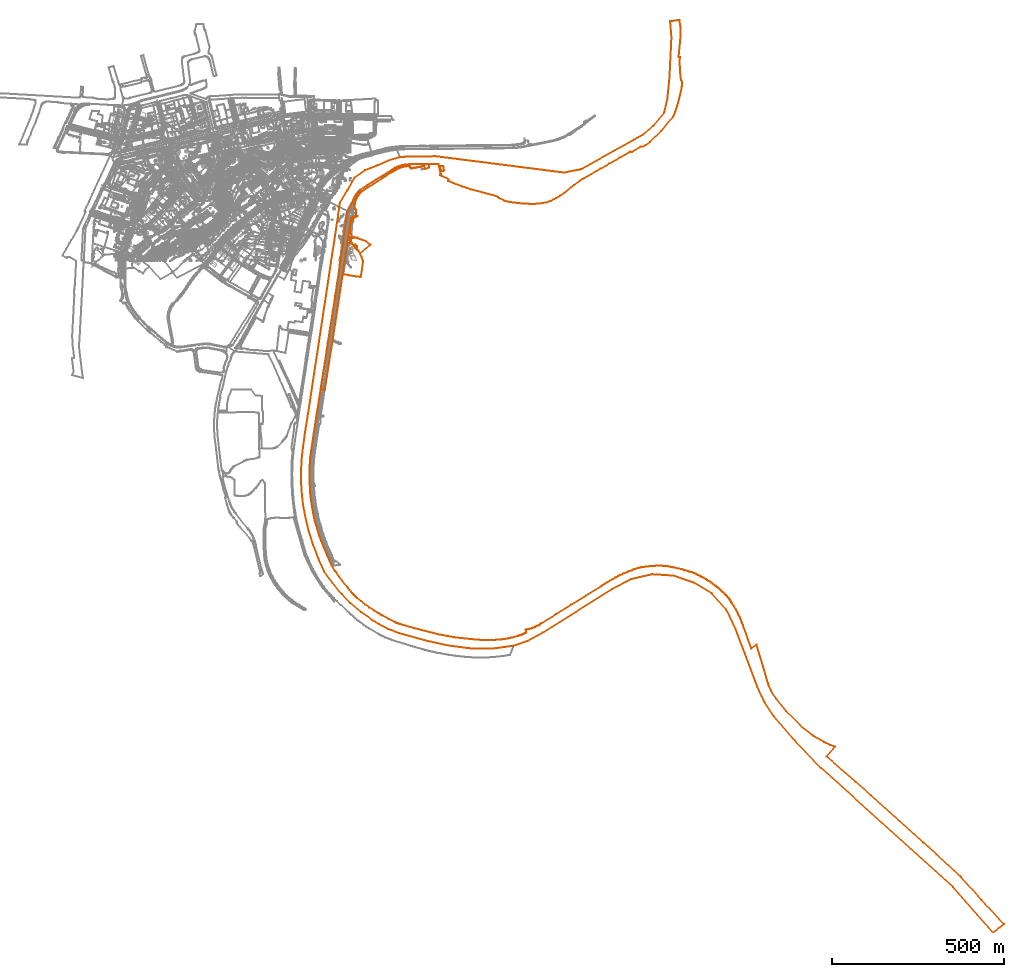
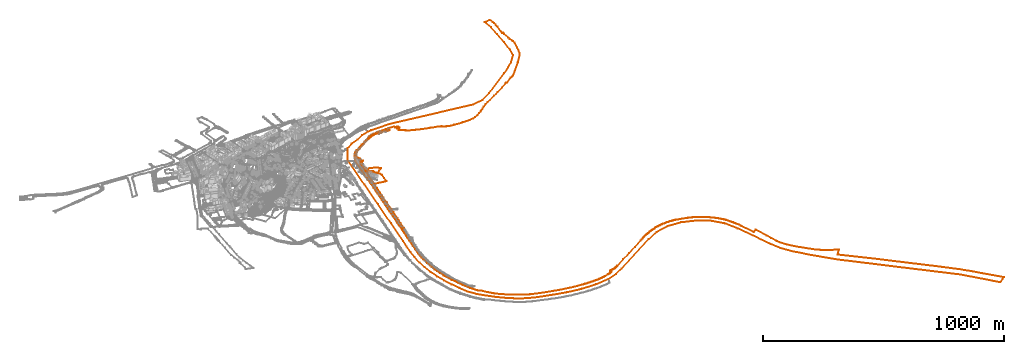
# Not in any storey, part 197 of 477: 4 geographic elements, 1 civil element.
"""IFC4 model written with IfcOpenShell, lengths in metres."""

from ifc_helpers import new_model, entity, si_unit, frame, origin_with_axes, place, context, subcontext, project, spatial, element, save


model = new_model("IFC4")

# Units and contexts
model_context = context("Model", 3, precision=1e-05, world=origin_with_axes())
body_context = subcontext(model_context, "Body", "Model", "MODEL_VIEW")
ifc_project = project(units=[si_unit("AREAUNIT", "SQUARE_METRE"), si_unit("LENGTHUNIT", "METRE")], contexts=[model_context])

# Sites
site_1_placement = place(None, origin_with_axes())
site_1 = spatial("IfcSite", under=ifc_project, at=site_1_placement, Name="Topoexport Site")
site_2_placement = place(site_1_placement, origin_with_axes())
site_2 = spatial("IfcSite", under=site_1, at=site_2_placement, Name="TPX_ROADS_OUTLINES")

# Civil element
civil_element_placement = place(site_2_placement, frame((676.8477320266, 50.5827160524, 502.7417613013), z_axis=(0.0, 0.0, 1.0), x_axis=(1.0, 0.0, 0.0)))
element("IfcCivilElement", 1, at=civil_element_placement, inside=site_2, Name="Roads Outline 111", ObjectType="ROAD", context=body_context, shape_type="GeometricCurveSet", body=[
    entity("IfcGeometricCurveSet", [entity("IfcIndexedPolyCurve", entity("IfcCartesianPointList3D", [[0.0, 0.0, 0.0], [1.4390000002, 9.5379999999, 0.0544406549], [2.406, 15.7649999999, 0.1727688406], [6.9340000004, 45.7609999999, 0.7243175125], [8.2560000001, 54.5449999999, 1.3172059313], [9.6810000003, 64.0, 0.8065225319], [10.2000000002, 67.439, 1.0233395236], [10.4950000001, 68.3999999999, 1.0053844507], [10.852, 69.3389999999, 1.0269529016], [11.2710000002, 70.2520000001, 1.0737440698], [11.7490000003, 71.1359999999, 1.0879564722], [12.284, 71.987, 1.1951884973], [12.8740000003, 72.8, 1.2460704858], [13.4890000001, 73.541, 1.2925676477], [14.1510000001, 74.2420000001, 1.3398007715], [14.855, 74.8999999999, 1.3813474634], [15.5989999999, 75.5120000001, 1.4038541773], [16.3810000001, 76.0760000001, 1.4180023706], [17.196, 76.5889999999, 1.4374150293], [18.0430000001, 77.0490000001, 1.4549626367], [18.1230000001, 76.9310000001, 1.450461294], [18.21, 76.818, 1.446150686], [19.0050000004, 75.973, 1.4154185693], [22.2150000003, 77.6880000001, 1.4773060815], [29.2090000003, 79.274, 1.522329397], [28.031, 78.8999999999, 1.5121740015], [26.8689999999, 78.4790000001, 1.5013046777], [25.7260000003, 78.0109999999, 1.488533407], [24.602, 77.496, 1.4706322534], [23.4850000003, 76.9269999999, 1.4503087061], [22.392, 76.3130000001, 1.4268864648], [21.3260000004, 75.6540000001, 1.407416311], [20.2880000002, 74.9510000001, 1.3845676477], [17.1240000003, 71.9950000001, 1.196196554], [16.4510000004, 66.5020000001, 1.0481086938], [16.0870000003, 63.6130000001, 0.6684468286], [16.0700000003, 63.527, 0.6687932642], [10.193, 64.405, 0.7658950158], [8.713, 54.4780000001, 1.6639119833], [7.4140000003, 45.7690000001, 0.850769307], [8.0449999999, 45.781, 1.3384440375], [7.8540000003, 37.7820000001, 1.0452661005], [6.355, 27.791, 0.5812857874], [12.656, 26.845, 0.4556467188], [12.4739999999, 20.7679999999, 0.348628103], [11.6159999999, 14.9990000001, 2.4412013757], [11.2660000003, 14.7490000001, 2.4311992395], [7.835, 15.29, 0.2884683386], [7.7860000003, 14.956, 0.3265535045], [8.7380000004, 14.8130000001, 0.9181942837], [8.2260000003, 11.0290000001, 0.3019195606], [10.3859999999, 9.189, 1.6378980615], [9.6499999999, 6.355, 1.9571049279], [11.0150000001, 6.156, 2.3321725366], [10.986, 5.9580000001, 2.3644050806], [10.6630000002, 3.7239999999, 1.6330187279], [13.0300000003, 1.014, 0.4309800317], [12.8430000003, 0.8500000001, 0.4423010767], [18.6040000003, -5.7439999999, 0.9782828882], [20.5360000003, -4.034, 0.811603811], [21.9720000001, -5.6610000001, 0.9701926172], [19.963, -7.433, 1.0927846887], [23.6970000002, -11.716, 0.806268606], [25.6950000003, -9.9750000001, 0.9323770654], [27.6070000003, -12.169, 0.7912865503], [26.8680000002, -12.8130000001, 0.7798090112], [25.6200000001, -11.3810000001, 0.8240470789], [24.3630000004, -12.4790000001, 0.785761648], [31.5130000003, -20.7009999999, 0.7330401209], [29.9890000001, -21.4399999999, 0.6414254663], [22.3970000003, -12.442, 0.7864210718], [8.7430000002, 3.3970000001, 0.1917493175], [5.213, 0.291, 0.1121935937], [2.7510000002, 0.5970000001, -0.0206027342], [1.423, -0.2150000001, -0.0086728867], [0.0, 0.0, 0.0]]))]),
])

# Site
site_3_placement = place(site_1_placement, origin_with_axes())
site_3 = spatial("IfcSite", under=site_1, at=site_3_placement, Name="TPX_CADASTRES")

# Geographic elements
geographic_element_1_placement = place(site_3_placement, frame((542.0177320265, -621.6102839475, 501.9060388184), z_axis=(0.0, 0.0, 1.0), x_axis=(1.0, 0.0, 0.0)))
element("IfcGeographicElement", 2, at=geographic_element_1_placement, inside=site_3, Name="Cadastre 115", PredefinedType="NOTDEFINED", context=body_context, shape_type="GeometricCurveSet", body=[
    entity("IfcGeometricCurveSet", [entity("IfcIndexedPolyCurve", entity("IfcCartesianPointList3D", [[0.0, 0.0, 0.0], [1.7000000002, 41.9029999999, 0.0426776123], [6.4010000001, 83.605, 0.0697938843], [12.202, 125.308, 0.0911263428], [19.003, 166.7109999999, 0.0603386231], [39.736, 303.4099999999, 0.0059807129], [62.23, 451.719, -1.0802236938], [84.7240000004, 600.0389999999, -1.1159338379], [107.2150000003, 748.3470000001, -1.0468880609], [113.0140000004, 790.55, -1.1881933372], [134.7110000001, 826.155, -1.161278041], [155.409, 863.659, -0.9169178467], [186.8100000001, 884.7590000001, -0.9188815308], [222.412, 898.9579999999, -1.1687156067], [254.0150000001, 912.959, 0.6503832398], [287.7180000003, 922.76, 1.7440050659], [303.3250000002, 923.7790000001, 2.063270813], [391.7410000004, 925.203, 2.1440401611], [764.2220000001, 877.7069999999, -1.0670202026], [813.7790000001, 887.4709999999, -0.9910232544], [860.0590000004, 913.3689999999, 0.6748161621], [967.5260000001, 973.5060000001, 27.7311880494], [994.6440000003, 988.254, 37.480184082], [1023.1500000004, 1013.648, 39.0747852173], [1055.9030000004, 1052.341, 40.5297521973], [1064.9140000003, 1092.6710000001, 40.5297521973], [1070.929, 1152.355, 40.5297521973], [1074.145, 1215.9210000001, 40.5297521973], [1076.898, 1272.449, 40.5297521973], [1073.0, 1317.497, 40.5297521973], [1099.7940000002, 1321.79, 40.5297521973], [1102.6010000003, 1301.723, 40.5297521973], [1103.4240000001, 1290.551, 40.5297521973], [1103.4770000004, 1280.514, 40.5297521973], [1102.2930000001, 1262.0279999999, 40.5297521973], [1098.5520000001, 1225.551, 40.5297521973], [1097.2440000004, 1213.4139999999, 40.5297521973], [1101.6160000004, 1212.946, 40.5297521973], [1101.426, 1211.067, 40.5297521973], [1100.4050000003, 1202.138, 40.5297521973], [1101.9770000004, 1174.115, 40.5297521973], [1102.9670000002, 1160.709, 40.5297521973], [1104.8590000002, 1146.179, 40.5297521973], [1107.0830000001, 1142.1140000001, 40.5297521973], [1106.9300000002, 1126.085, 40.5297521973], [1098.75, 1091.1129999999, 40.5297521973], [1093.1120000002, 1070.4709999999, 40.5297521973], [1087.611, 1053.0759999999, 40.5297521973], [1081.9100000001, 1041.25, 40.6099217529], [1046.9140000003, 998.0290000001, 37.8777592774], [1013.952, 966.9480000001, 23.0549628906], [1001.0490000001, 957.156, 15.1959356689], [993.9810000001, 953.3230000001, 12.8877911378], [987.1190000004, 953.0379999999, 12.5190143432], [961.6290000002, 937.5900000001, 3.665798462], [957.2340000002, 938.6810000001, 4.0288244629], [954.4210000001, 937.0600000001, 3.4625143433], [926.5050000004, 921.003, 1.0751563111], [896.0070000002, 903.4579999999, 0.5256862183], [870.9710000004, 889.0560000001, -1.0434083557], [824.1980000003, 862.5249999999, -0.8967766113], [810.4880000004, 854.436, -0.9945100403], [793.4700000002, 841.7649999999, -1.1405064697], [783.8320000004, 833.8389999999, -1.1022977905], [772.5140000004, 824.301, -1.2342279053], [765.8640000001, 819.112, -1.0903235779], [753.5080000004, 810.9679999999, -1.0176105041], [741.523, 803.5, -1.074896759], [725.1920000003, 795.5049999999, -1.335704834], [713.5960000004, 791.3500000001, -1.372318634], [694.4680000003, 787.821, -0.7182080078], [679.696, 786.7409999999, -0.4697137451], [664.0280000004, 786.9480000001, -0.5030366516], [644.5960000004, 787.828, -0.7203023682], [623.4060000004, 789.9709999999, -1.3066104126], [602.5380000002, 792.8959999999, -1.355947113], [590.9960000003, 796.0989999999, -1.3330582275], [575.4240000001, 803.2960000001, -1.0753761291], [572.605, 805.9920000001, -1.0486753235], [572.7720000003, 807.3159999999, -0.9968969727], [557.0450000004, 812.294, -1.0242065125], [527.3560000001, 820.0279999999, -1.1305361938], [494.3810000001, 828.817, -1.1863125], [468.1800000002, 837.7220000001, -1.1066472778], [442.8500000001, 847.226, -1.1580195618], [427.2440000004, 853.3149999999, -1.0875688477], [429.4910000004, 858.176, -0.8657447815], [409.1660000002, 867.754, -0.985758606], [404.9010000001, 870.3159999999, -0.9955252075], [404.074, 871.385, -0.9530349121], [407.0240000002, 873.9509999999, -1.0865319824], [403.9880000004, 883.5190000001, -0.936262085], [401.6940000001, 895.2079999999, -1.1791297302], [404.2280000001, 895.3259999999, -1.1788020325], [406.6520000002, 885.0349999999, -0.918755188], [407.9930000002, 881.54, -0.9807799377], [416.6610000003, 883.575, -0.9350008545], [414.29, 893.7649999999, -1.1818615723], [412.5810000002, 896.014, -1.1768913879], [412.4070000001, 897.3219999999, -1.1732589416], [404.057, 897.1189999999, -1.1738226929], [404.0690000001, 896.2849999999, -1.1761387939], [401.5360000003, 896.199, -1.1763776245], [399.642, 902.5589999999, 0.2813117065], [373.3500000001, 902.9820000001, 0.4195534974], [361.0750000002, 902.311, 0.200262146], [320.3250000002, 902.71, 0.3306604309], [293.2180000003, 899.5589999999, -1.1680561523], [273.9180000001, 891.8559999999, -1.1357965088], [218.4140000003, 857.6540000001, -0.8713044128], [181.412, 834.355, -1.0902175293], [168.0090000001, 822.352, -1.1854189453], [166.4360000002, 820.537, -1.148776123], [164.9080000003, 818.6839999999, -1.0687328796], [163.4280000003, 816.7930000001, -1.0072961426], [161.9940000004, 814.8659999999, -1.0223649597], [160.6100000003, 812.9029999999, -1.0272359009], [159.1740000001, 810.75, -1.0165260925], [157.7960000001, 808.5600000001, -0.9889538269], [156.4780000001, 806.3319999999, -1.0375517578], [155.2210000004, 804.071, -1.0735549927], [154.0250000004, 801.7760000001, -1.1110096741], [152.8910000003, 799.449, -1.2036887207], [151.821, 797.0929999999, -1.3226821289], [137.9820000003, 767.885, 2.3113259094], [135.2990000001, 762.5109999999, 2.2620417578], [123.801, 690.423, 0.5425215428], [124.4980000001, 684.551, 0.7243541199], [119.2950000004, 652.9909999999, 0.1488033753], [116.054, 631.5800000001, 0.1639845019], [112.8530000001, 609.909, -0.5517054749], [109.273, 582.077, -1.0554445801], [105.8520000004, 561.4750000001, -1.1082409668], [102.8320000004, 540.8740000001, -1.0558017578], [99.6910000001, 520.0829999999, -1.1056615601], [95.5900000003, 492.311, -1.1555075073], [92.3100000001, 472.02, -1.1044381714], [89.2890000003, 451.308, -1.1264724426], [84.3690000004, 423.8459999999, -1.1125753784], [81.378, 402.9550000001, -1.0842247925], [77.9580000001, 382.4939999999, -1.0687600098], [75.057, 361.622, -1.0425980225], [71.8170000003, 340.4709999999, -1.0613349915], [64.4250000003, 295.318, -1.1045910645], [59.9750000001, 266.8859999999, -0.0401028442], [56.912, 247.2560000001, 0.4312880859], [55.054, 235.344, 0.3271748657], [52.7640000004, 219.5330000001, 0.2402608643], [49.003, 195.192, 0.2519875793], [45.452, 174.72, 0.2037938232], [42.3620000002, 154.0589999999, 0.1048466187], [39.3110000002, 133.227, 0.004605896], [37.111, 119.477, 0.0074746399], [33.0600000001, 91.855, 0.1121435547], [27.5790000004, 57.2830000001, 0.0631157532], [26.2990000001, 40.7009999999, 0.0730621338], [25.1980000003, 23.6499999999, 0.0640465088], [25.0680000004, 7.2889999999, 0.063135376], [25.1270000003, -20.023, 0.06345047], [26.2370000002, -42.1229999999, 0.0737811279], [27.128, -55.2320000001, 0.0634484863], [29.52, -76.0209999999, 0.0621362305], [31.8020000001, -90.8300000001, 0.0908261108], [35.2540000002, -110.899, 0.0289588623], [39.9760000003, -133.6769999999, 0.0067570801], [53.1710000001, -176.916, 0.2370680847], [59.0420000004, -192.6359999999, 0.3572734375], [66.2540000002, -210.325, -1.1103059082], [75.2770000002, -232.4650000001, -1.0429473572], [89.54, -264.321, -1.1246417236], [99.1670000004, -279.6969999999, -1.1328786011], [103.0280000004, -285.2280000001, -1.0622677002], [106.9420000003, -290.7209999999, -1.1197266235], [110.909, -296.176, -0.9881795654], [119.7410000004, -307.6510000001, 0.8797353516], [134.9640000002, -327.382, 1.0506490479], [138.4310000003, -331.7409999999, 1.7574806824], [141.9570000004, -336.054, 1.901065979], [145.2770000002, -340.007, 1.9617590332], [148.6320000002, -343.932, 1.9617590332], [152.02, -347.827, 1.9617590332], [154.0150000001, -350.101, 1.9617590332], [156.0670000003, -352.324, 1.9617590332], [158.1740000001, -354.4939999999, 1.9617590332], [160.3350000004, -356.6100000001, 1.9617590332], [162.5490000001, -358.6710000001, 1.9617590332], [174.4020000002, -367.949, 1.9617590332], [186.3230000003, -377.1529999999, 1.9617590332], [198.5860000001, -385.9909999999, 1.9617590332], [211.8140000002, -394.6059999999, 1.9617590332], [224.537, -402.6070000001, 1.9617590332], [227.7660000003, -404.5160000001, 1.9617590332], [231.0190000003, -406.3829999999, 1.9617590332], [234.2960000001, -408.21, 1.9617590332], [237.5950000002, -409.9950000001, 1.9617590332], [255.23, -419.4369999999, 1.9617590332], [272.963, -428.703, 1.9617590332], [275.7050000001, -429.946, 1.9617590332], [278.4780000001, -431.1189999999, 1.9617590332], [281.2790000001, -432.2220000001, 1.9617590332], [284.1070000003, -433.254, 1.9617590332], [286.9600000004, -434.2150000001, 1.9617590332], [289.8360000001, -435.1040000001, 1.9617590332], [304.571, -439.4010000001, 1.9617590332], [332.9720000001, -447.452, 1.9617590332], [357.7310000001, -454.02, 1.9617590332], [381.5870000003, -459.8670000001, 1.9617590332], [401.2070000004, -464.5970000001, 1.9617590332], [420.8260000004, -468.5060000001, 1.9617590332], [447.8340000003, -473.0860000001, 1.9617590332], [467.6890000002, -475.4950000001, 1.9617590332], [502.5050000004, -479.0150000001, 1.9617590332], [507.3450000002, -479.4680000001, 1.9617590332], [512.1920000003, -479.845, 1.9617590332], [517.0450000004, -480.1459999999, 1.9617590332], [521.9010000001, -480.371, 1.9617590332], [526.7600000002, -480.52, 1.9617590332], [531.6210000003, -480.5919999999, 1.9617590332], [536.483, -480.588, 1.9617590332], [541.6570000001, -480.6680000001, 1.9617590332], [546.8310000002, -480.6880000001, 1.9617590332], [552.0050000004, -480.648, 1.9617590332], [557.1780000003, -480.5490000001, 1.9617590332], [562.3500000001, -480.3900000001, 1.9617590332], [567.52, -480.172, 1.9617590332], [571.2120000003, -480.023, 1.9617590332], [574.9010000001, -479.8049999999, 1.9617590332], [578.5860000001, -479.5190000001, 1.9617590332], [582.2640000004, -479.166, 1.9617590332], [585.9350000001, -478.7439999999, 1.9617590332], [589.5980000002, -478.2550000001, 1.9617590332], [593.2510000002, -477.6980000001, 1.9617590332], [596.8930000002, -477.074, 1.9617590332], [600.5240000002, -476.3829999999, 1.9617590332], [604.1400000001, -475.625, 1.9617590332], [607.7420000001, -474.8, 1.9617590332], [611.3290000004, -473.909, 1.9617590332], [614.898, -472.952, 1.9617590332], [630.3800000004, -468.8630000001, 1.9617590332], [632.6700000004, -468.2509999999, 1.9617590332], [634.9420000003, -467.575, 1.9617590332], [637.1950000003, -466.8370000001, 1.9617590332], [639.426, -466.0349999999, 1.9617590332], [641.6340000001, -465.172, 1.9617590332], [643.8170000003, -464.2479999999, 1.9617590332], [645.9730000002, -463.263, 1.9617590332], [648.1010000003, -462.2180000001, 1.9617590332], [650.199, -461.1140000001, 1.9617590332], [652.2650000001, -459.952, 1.9617590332], [653.8000000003, -459.0050000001, 1.9617590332], [653.9850000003, -458.791, 1.9617590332], [654.128, -458.547, 1.9617590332], [654.2220000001, -458.28, 1.9617590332], [654.2640000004, -458.0, 1.9617590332], [654.253, -457.7169999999, 1.9617590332], [653.1300000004, -450.4839999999, 1.9617590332], [655.8890000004, -450.0870000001, 1.9617590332], [658.6360000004, -449.6140000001, 1.9617590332], [661.3690000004, -449.0649999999, 1.9617590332], [664.0850000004, -448.439, 1.9617590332], [666.7830000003, -447.7390000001, 1.9617590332], [669.4610000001, -446.963, 1.9617590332], [672.1150000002, -446.1130000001, 1.9617590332], [674.7450000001, -445.1899999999, 1.9617590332], [677.3490000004, -444.193, 1.9617590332], [679.9230000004, -443.125, 1.9617590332], [682.4670000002, -441.9850000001, 1.9617590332], [684.9780000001, -440.7749999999, 1.9617590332], [687.4540000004, -439.4950000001, 1.9617590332], [689.8940000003, -438.1470000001, 1.9617590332], [692.2950000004, -436.7320000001, 1.9617590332], [694.6560000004, -435.25, 1.9617590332], [696.9750000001, -433.703, 1.9617590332], [699.25, -432.0919999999, 1.9617590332], [742.0430000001, -405.45, 1.9617590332], [785.5470000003, -378.378, 1.9617590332], [828.0120000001, -351.9099999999, 1.9617590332], [870.3230000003, -325.594, 1.9617590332], [877.327, -321.155, 1.9617590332], [884.3670000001, -316.773, 1.9617590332], [891.4430000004, -312.4510000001, 1.9617590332], [898.5550000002, -308.1869999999, 1.9617590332], [905.702, -303.9820000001, 1.9617590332], [912.8840000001, -299.8370000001, 1.9617590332], [917.466, -297.378, 1.9617590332], [922.0830000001, -294.987, 1.9617590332], [926.736, -292.665, 1.9617590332], [931.4230000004, -290.4129999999, 1.9617590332], [936.1430000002, -288.23, 1.9617590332], [940.895, -286.118, 1.9617590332], [945.6770000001, -284.077, 1.9617590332], [950.4890000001, -282.1070000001, 1.9617590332], [955.3310000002, -280.209, 1.9617590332], [960.199, -278.3829999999, 1.9617590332], [965.0950000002, -276.6300000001, 1.9617590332], [970.0160000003, -274.949, 1.9617590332], [974.9610000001, -273.3419999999, 1.9617590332], [979.9300000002, -271.8090000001, 1.9617590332], [983.48, -270.946, 1.9617590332], [987.0460000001, -270.148, 1.9617590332], [990.6260000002, -269.416, 1.9617590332], [994.2180000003, -268.7490000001, 1.9617590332], [997.8220000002, -268.148, 1.9617590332], [1001.4370000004, -267.6130000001, 1.9617590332], [1005.0600000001, -267.1440000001, 1.9617590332], [1008.6920000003, -266.7409999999, 1.9617590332], [1013.4010000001, -266.2650000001, 1.9617590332], [1018.1170000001, -265.861, 1.9617590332], [1022.838, -265.5290000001, 1.9617590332], [1027.5640000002, -265.2690000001, 1.9617590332], [1032.2940000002, -265.081, 1.9617590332], [1037.0250000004, -264.966, 1.9617590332], [1041.7580000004, -264.923, 1.9617590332], [1046.4910000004, -264.952, 1.9617590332], [1049.7770000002, -265.057, 1.9617590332], [1053.0590000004, -265.2250000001, 1.9617590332], [1056.338, -265.4569999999, 1.9617590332], [1059.6120000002, -265.7520000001, 1.9617590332], [1062.8800000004, -266.1100000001, 1.9617590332], [1066.1400000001, -266.531, 1.9617590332], [1069.3910000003, -267.0150000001, 1.9617590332], [1072.6330000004, -267.5619999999, 1.9617590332], [1075.8630000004, -268.1710000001, 1.9617590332], [1083.5240000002, -269.8500000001, 1.9617590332], [1091.1690000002, -271.598, 1.9617590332], [1098.7970000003, -273.4170000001, 1.9617590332], [1106.409, -275.3060000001, 1.9617590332], [1114.003, -277.2650000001, 1.9617590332], [1117.6300000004, -278.219, 1.9617590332], [1121.2390000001, -279.2350000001, 1.9617590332], [1124.8310000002, -280.3130000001, 1.9617590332], [1128.4040000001, -281.452, 1.9617590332], [1132.0600000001, -282.6869999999, 1.9617590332], [1135.6950000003, -283.987, 1.9617590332], [1139.3050000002, -285.3489999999, 1.9617590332], [1142.892, -286.7749999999, 1.9617590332], [1146.4530000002, -288.263, 1.9617590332], [1150.4070000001, -290.0420000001, 1.9617590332], [1154.3320000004, -291.882, 1.9617590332], [1158.2290000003, -293.7820000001, 1.9617590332], [1162.0950000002, -295.743, 1.9617590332], [1165.9310000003, -297.763, 1.9617590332], [1169.7350000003, -299.8430000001, 1.9617590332], [1173.5070000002, -301.9809999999, 1.9617590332], [1177.2450000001, -304.1769999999, 1.9617590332], [1180.9480000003, -306.4310000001, 1.9617590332], [1184.6160000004, -308.7420000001, 1.9617590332], [1188.4430000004, -311.3360000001, 1.9617590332], [1192.2380000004, -313.977, 1.9617590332], [1195.9990000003, -316.665, 1.9617590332], [1199.7270000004, -319.3999999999, 1.9617590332], [1203.1720000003, -321.963, 1.9617590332], [1206.5790000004, -324.574, 1.9617590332], [1209.9500000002, -327.2339999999, 1.9617590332], [1213.2810000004, -329.942, 1.9617590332], [1216.574, -332.6969999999, 1.9617590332], [1219.827, -335.5, 1.9617590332], [1223.0390000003, -338.348, 1.9617590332], [1225.6610000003, -340.7490000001, 1.9617590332], [1228.2350000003, -343.2010000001, 1.9617590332], [1230.7610000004, -345.7039999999, 1.9617590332], [1233.236, -348.2560000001, 1.9617590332], [1235.6610000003, -350.8559999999, 1.9617590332], [1238.0330000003, -353.504, 1.9617590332], [1240.3530000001, -356.1980000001, 1.9617590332], [1242.6200000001, -358.9369999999, 1.9617590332], [1244.358, -361.0279999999, 1.9617590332], [1246.0430000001, -363.1610000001, 1.9617590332], [1247.6750000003, -365.335, 1.9617590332], [1249.253, -367.5490000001, 1.9617590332], [1250.7750000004, -369.8019999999, 1.9617590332], [1252.2420000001, -372.091, 1.9617590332], [1253.6510000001, -374.416, 1.9617590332], [1257.122, -380.2120000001, 1.9617590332], [1260.54, -386.0390000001, 1.9617590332], [1263.9060000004, -391.8970000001, 1.9617590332], [1267.219, -397.784, 1.9617590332], [1269.077, -401.277, 1.9617590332], [1270.8690000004, -404.8049999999, 1.9617590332], [1272.594, -408.365, 1.9617590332], [1274.2520000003, -411.9580000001, 1.9617590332], [1275.8420000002, -415.581, 1.9617590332], [1278.7200000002, -422.622, 1.9617590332], [1281.5270000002, -429.692, 1.9617590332], [1284.2620000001, -436.79, 1.9617590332], [1286.9250000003, -443.915, 1.9617590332], [1308.7750000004, -505.148, 1.9617590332], [1311.6360000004, -503.0490000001, 1.9617590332], [1323.8850000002, -494.0590000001, 1.9617590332], [1341.9450000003, -553.632, 1.9617590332], [1349.2420000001, -578.2949999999, 1.9617590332], [1357.3300000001, -606.469, 1.9617590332], [1359.3000000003, -612.0689999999, 1.9617590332], [1366.0500000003, -627.1699999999, 1.9617590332], [1382.142, -653.0490000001, 1.9617590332], [1410.6490000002, -686.693, 1.9617590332], [1458.3710000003, -735.551, 1.9617590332], [1484.2590000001, -755.753, 1.9617590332], [1490.321, -760.341, 1.9617590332], [1519.719, -776.936, 1.9617590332], [1537.5290000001, -785.5860000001, 1.9617590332], [1552.1500000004, -791.0349999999, 1.9617590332], [1527.2620000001, -819.334, 1.9617590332], [1610.1120000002, -891.7949999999, 1.9617590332], [1657.5610000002, -933.2949999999, 1.9617590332], [1808.1750000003, -1068.9680000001, 1.9617590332], [1846.6610000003, -1103.6510000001, 1.9617590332], [1918.2460000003, -1170.1799999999, 1.9617590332], [1952.6370000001, -1206.6950000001, 1.9617590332], [1978.4250000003, -1236.209, 1.9617590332], [2042.8230000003, -1306.311, 1.9617590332], [2030.6610000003, -1315.8910000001, 1.9617590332], [2011.7230000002, -1330.8100000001, 1.9617590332], [1895.23, -1198.7, 1.9617590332], [1511.2180000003, -852.6980000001, 1.9617590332], [1434.216, -771.6939999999, 1.9617590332], [1375.2150000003, -703.6869999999, 1.9617590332], [1347.2150000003, -661.683, 1.9617590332], [1326.2140000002, -615.682, 1.9617590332], [1263.2080000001, -448.683, 1.9617590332], [1236.2390000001, -391.6780000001, 1.9617590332], [1194.236, -345.6810000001, 1.9617590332], [1141.2310000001, -313.686, 1.9617590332], [1082.202, -293.676, 1.9617590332], [1020.2290000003, -289.6969999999, 1.9617590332], [959.236, -303.706, 1.9617590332], [904.247, -332.716, 1.9617590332], [702.2060000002, -459.683, 1.9617590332], [662.196, -481.676, 1.9617590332], [618.196, -497.5760000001, 1.9617590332], [553.7320000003, -505.9939999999, 1.9617590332], [488.1340000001, -504.9010000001, 1.9617590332], [421.142, -495.7150000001, 1.9617590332], [362.0520000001, -482.3319999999, 1.9617590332], [285.2450000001, -460.9369999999, 1.9617590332], [253.2420000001, -448.7309999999, 1.9617590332], [226.3390000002, -435.027, 1.9617590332], [208.5360000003, -423.7239999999, 1.9617590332], [174.8310000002, -399.9180000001, 1.9617590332], [143.2280000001, -373.111, 1.9196070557], [119.3280000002, -347.7050000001, 0.8720722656], [92.5250000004, -315.6950000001, -1.1028700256], [67.7210000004, -281.889, -1.095138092], [50.7170000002, -243.689, 0.2567996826], [35.713, -204.189, 0.0186773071], [22.7080000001, -164.1910000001, 0.0830588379], [13.2040000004, -125.192, 0.0775157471], [5.7000000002, -83.895, 0.0774572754], [1.4010000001, -42.0009999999, 0.0422122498], [0.0, 0.0, 0.0]]))]),
])
geographic_element_2_placement = place(site_3_placement, frame((678.2867320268, 60.1207160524, 502.7962019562), z_axis=(0.0, 0.0, 1.0), x_axis=(1.0, 0.0, 0.0)))
element("IfcGeographicElement", 3, at=geographic_element_2_placement, inside=site_3, Name="Cadastre 137", PredefinedType="NOTDEFINED", context=body_context, shape_type="GeometricCurveSet", body=[
    entity("IfcGeometricCurveSet", [entity("IfcIndexedPolyCurve", entity("IfcCartesianPointList3D", [[0.0, 0.0, 0.0], [0.9669999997, 6.227, 0.1183281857], [9.5349999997, 4.9380000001, 2.3658362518], [22.585, 7.115, 1.6246763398], [23.196, 6.8970000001, 1.7841048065], [23.568, 7.8910000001, 0.9821282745], [27.8709999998, 7.004, 1.7058532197], [27.324, 5.4370000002, 2.3858005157], [54.6889999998, -4.3189999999, 2.3262473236], [60.5689999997, -10.3599999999, 0.5049738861], [65.8849999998, -13.78, 0.7774375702], [49.199, -27.0859999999, 0.722874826], [35.1809999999, -38.443, 0.4687894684], [30.9240000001, -30.621, 0.631239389], [22.9219999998, -21.5359999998, 0.7398935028], [26.645, -18.0189999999, 0.9947625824], [22.068, -12.5859999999, 0.6656425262], [18.1669999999, -16.4299999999, 1.035711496], [6.3559999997, -2.9069999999, 0.2104515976], [4.375, -0.621, 0.0874710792], [0.0, 0.0, 0.0]]))]),
])
geographic_element_3_placement = place(site_3_placement, frame((663.3037320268, -39.1152839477, 502.6944244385), z_axis=(0.0, 0.0, 1.0), x_axis=(1.0, 0.0, 0.0)))
element("IfcGeographicElement", 4, at=geographic_element_3_placement, inside=site_3, Name="Cadastre 139", PredefinedType="NOTDEFINED", context=body_context, shape_type="GeometricCurveSet", body=[
    entity("IfcGeometricCurveSet", [entity("IfcIndexedPolyCurve", entity("IfcCartesianPointList3D", [[0.0, 0.0, 0.0], [14.983, 99.236, 0.1017775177], [19.358, 98.615, 0.1892485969], [21.3389999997, 96.3290000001, 0.3122291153], [33.1499999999, 82.8060000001, 1.1374890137], [37.051, 86.6500000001, 0.7674200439], [41.628, 81.2170000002, 1.0965401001], [37.9049999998, 77.7000000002, 0.8416710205], [45.9070000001, 68.615, 0.7330169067], [50.1639999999, 60.7930000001, 0.5705669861], [49.8479999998, 60.5580000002, 0.6194990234], [54.6170000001, 51.5720000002, 1.1140562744], [58.1699999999, 41.219, 1.1098257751], [59.4210000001, 37.6000000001, 1.1733734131], [56.2369999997, 16.4750000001, 1.1733734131], [52.6839999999, -7.1699999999, 1.1733734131], [52.4819999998, -8.656, 1.1733734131], [38.736, -6.3969999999, 1.1733734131], [21.9580000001, -3.6359999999, 1.1317941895], [0.0, 0.0, 0.0]]))]),
])
geographic_element_4_placement = place(site_3_placement, frame((598.9297320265, -374.3542839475, 502.3373269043), z_axis=(0.0, 0.0, 1.0), x_axis=(1.0, 0.0, 0.0)))
element("IfcGeographicElement", 5, at=geographic_element_4_placement, inside=site_3, Name="Cadastre 143", PredefinedType="NOTDEFINED", context=body_context, shape_type="GeometricCurveSet", body=[
    entity("IfcGeometricCurveSet", [entity("IfcIndexedPolyCurve", entity("IfcCartesianPointList3D", [[0.0, 0.0, 0.0], [3.0630000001, 19.6299999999, -0.4713909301], [7.5130000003, 48.0619999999, -1.5358791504], [14.9050000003, 93.2149999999, -1.4926230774], [18.145, 114.3659999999, -1.4738861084], [21.0460000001, 135.2379999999, -1.5000480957], [24.466, 155.699, -1.5155128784], [27.4570000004, 176.5899999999, -1.5438634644], [32.3770000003, 204.0519999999, -1.5577605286], [35.398, 224.764, -1.5357262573], [38.6780000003, 245.0549999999, -1.5867955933], [42.7790000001, 272.8269999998, -1.536949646], [45.9200000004, 293.618, -1.4870898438], [48.9400000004, 314.219, -1.5395290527], [52.361, 334.821, -1.486732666], [55.9410000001, 362.6529999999, -0.9829935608], [59.142, 384.324, -0.2673035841], [62.3830000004, 405.7349999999, -0.2824847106], [67.5860000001, 437.2949999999, 0.2930660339], [66.889, 443.1669999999, 0.1112334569], [78.3870000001, 515.2549999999, 1.8307536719], [81.0700000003, 520.629, 1.8800378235], [94.909, 549.8369999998, -1.7539702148], [95.9790000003, 552.193, -1.6349768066], [97.1130000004, 554.52, -1.54229776], [98.3090000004, 556.8149999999, -1.5048430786], [99.5660000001, 559.0759999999, -1.4688398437], [100.8840000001, 561.304, -1.4202419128], [102.2620000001, 563.4939999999, -1.4478141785], [103.6980000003, 565.6469999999, -1.4585239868], [105.0820000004, 567.6099999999, -1.4536530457], [106.5160000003, 569.537, -1.4385842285], [107.9960000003, 571.4279999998, -1.5000209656], [109.5240000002, 573.281, -1.580064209], [111.0970000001, 575.0959999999, -1.6167070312], [124.5, 587.0989999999, -1.5215056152], [161.5020000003, 610.398, -1.3025924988], [217.0060000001, 644.5999999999, -1.5670845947], [236.3060000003, 652.3029999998, -1.5993442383], [263.4130000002, 655.4539999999, -0.100627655], [304.1630000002, 655.0549999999, -0.2310259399], [316.4380000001, 655.726, -0.0117345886], [315.2590000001, 645.602, -1.5996526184], [308.5630000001, 642.4979999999, -1.4977512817], [302.7570000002, 641.432, -1.462533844], [301.1770000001, 650.074, -1.6045248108], [277.3990000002, 645.71, -1.6031363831], [262.361, 642.9749999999, -1.5135018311], [262.2770000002, 643.7209999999, -1.5381560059], [262.122, 644.456, -1.5623560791], [261.8960000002, 645.173, -1.5858143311], [261.6020000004, 645.8639999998, -1.6081039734], [261.2430000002, 646.524, -1.6131450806], [260.8220000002, 647.1459999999, -1.6126561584], [260.3430000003, 647.7239999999, -1.6110509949], [259.8100000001, 648.254, -1.6095791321], [259.3660000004, 648.5, -1.6088959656], [258.8990000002, 648.703, -1.6083322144], [258.4160000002, 648.8589999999, -1.6078989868], [257.9190000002, 648.9679999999, -1.607596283], [257.4140000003, 649.0279999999, -1.607429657], [256.9050000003, 649.037, -1.6074046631], [254.7490000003, 649.0189999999, -1.6074546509], [252.594, 648.9369999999, -1.607682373], [250.4420000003, 648.79, -1.6080906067], [248.2960000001, 648.5799999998, -1.6086737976], [246.1570000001, 648.304, -1.6094402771], [244.0280000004, 647.966, -1.6103789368], [241.909, 647.5629999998, -1.6114981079], [239.7560000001, 647.0859999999, -1.6128227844], [237.6190000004, 646.544, -1.613138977], [235.5, 645.9369999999, -1.6104587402], [233.4000000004, 645.2649999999, -1.5887819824], [231.321, 644.53, -1.5647860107], [229.2660000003, 643.7319999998, -1.5385195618], [226.8690000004, 642.7409999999, -1.5057751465], [224.4940000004, 641.6969999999, -1.4712922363], [222.1430000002, 640.601, -1.4350688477], [219.8170000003, 639.4519999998, -1.3970937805], [217.517, 638.253, -1.3574661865], [215.2440000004, 637.0019999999, -1.3509064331], [212.7280000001, 635.5379999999, -1.383863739], [210.25, 634.0119999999, -1.4181856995], [207.8100000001, 632.425, -1.4538979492], [205.4100000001, 630.7779999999, -1.4909535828], [122.0280000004, 577.3909999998, -1.6043261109], [114.7960000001, 571.179, -1.487460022], [108.767, 563.8599999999, -1.4496347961], [103.0950000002, 552.7509999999, -1.6037970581], [99.7050000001, 539.3689999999, -0.882328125], [99.355, 538.3089999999, -0.6483660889], [99.0700000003, 537.23, -0.3026967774], [98.8520000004, 536.1359999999, 0.1230344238], [98.7000000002, 535.03, 0.4576315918], [98.6170000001, 533.9169999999, 0.6897115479], [98.6010000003, 532.801, 0.973605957], [98.6540000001, 531.6869999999, 1.1447709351], [98.7750000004, 530.5769999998, 1.387052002], [98.963, 529.477, 1.5590767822], [99.219, 528.3859999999, 1.6459458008], [99.5420000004, 527.314, 1.732284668], [99.929, 526.263, 1.8000009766], [100.3810000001, 525.237, 1.8595965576], [100.8940000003, 524.2409999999, 1.9122114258], [101.4670000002, 523.2789999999, 1.9690143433], [102.0990000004, 522.3529999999, 2.0217731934], [102.7850000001, 521.4679999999, 2.0551823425], [103.5250000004, 520.6269999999, 2.0833688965], [102.52, 502.433, 1.8750666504], [101.4030000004, 501.8639999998, 1.854743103], [100.3100000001, 501.25, 1.8313208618], [99.2440000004, 500.591, 1.811850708], [98.2060000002, 499.888, 1.7890020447], [95.0420000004, 496.932, 1.6006309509], [90.483, 492.0209999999, 1.4505893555], [87.5990000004, 488.9369999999, 1.2109569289], [86.1740000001, 479.4819999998, 1.7216403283], [84.8520000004, 470.6979999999, 1.1287519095], [80.324, 440.7019999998, 0.5772032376], [79.3570000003, 434.4749999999, 0.4588750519], [64.3740000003, 335.2389999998, 0.3570975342], [59.4620000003, 302.7279999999, 0.4638451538], [55.0320000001, 273.459, -1.3700273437], [52.0260000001, 253.578, -1.4971409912], [48.4990000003, 230.459, -1.5357607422], [43.091, 194.9619999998, -1.5207440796], [38.1520000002, 162.844, -1.5730268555], [34.8490000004, 142.1439999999, -1.5397304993], [31.574, 121.179, -1.5636173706], [24.4770000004, 76.1269999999, -1.5156172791], [21.6210000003, 57.888, -1.5025253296], [18.5590000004, 38.2919999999, -1.475460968], [12.5440000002, -0.121, -1.5081142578], [0.0, 0.0, 0.0]]))]),
])

save(model, "model.ifc")
